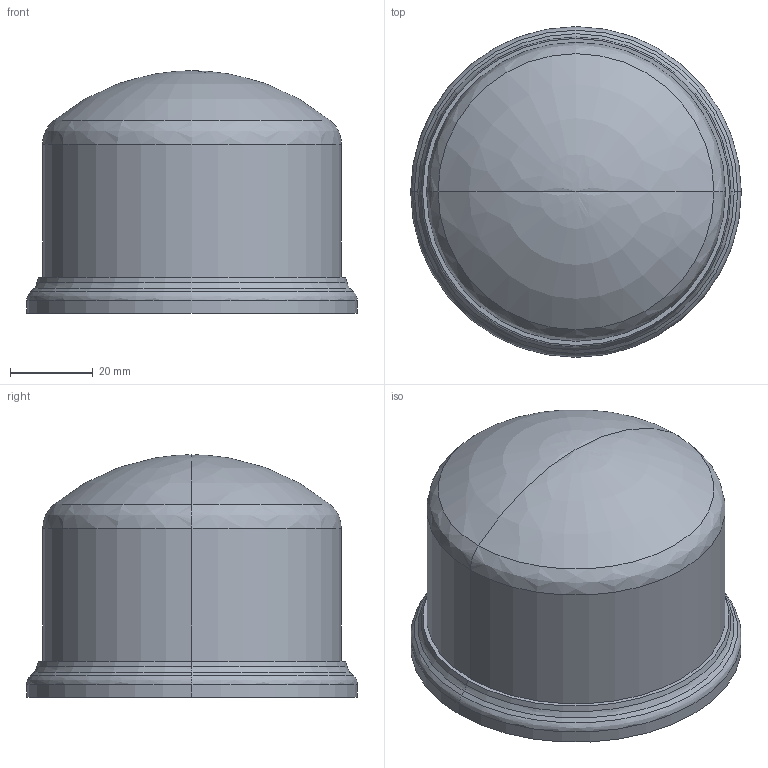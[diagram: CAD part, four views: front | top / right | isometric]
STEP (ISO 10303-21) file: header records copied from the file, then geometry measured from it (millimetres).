
FILE_DESCRIPTION(('CAx-IF Rec.Pracs.---Model Styling and Organization---1.2---2011-12-15','CAx-IF Rec.Pracs.---Geometric and Assembly Validation Properties---4.1---2014-06-16','CAx-IF Rec.Pracs.---PMI Polyline Presentation---2.0---2013-05-24'),'2;1');
FILE_NAME('022YK02Y05.stp','2020-09-29T08:49:06+02:00',(''),(''),'STEP Interface 4.3 by CT CoreTechnologie','3D_Evolution4.3 by CT CoreTechnologie','');
FILE_SCHEMA(('AP203_CONFIGURATION_CONTROLLED_3D_DESIGN_OF_MECHANICAL_PARTS_AND_ASSEMBLIES_MIM_LF'));
Length unit declared in the file: millimetre
Products named in the file (1): 022YK02Y05
Bounding box: 79.7 x 79.7 x 58.4 mm (x, y, z)
Volume: 18738.8 mm3; surface area: 29864.6 mm2
Topology: 1 solids, 1 shells, 56 faces, 140 edges, 87 vertices
Faces by surface type: bspline 24, plane 19, cylinder 13
Entity records: 4516 total; most frequent: CARTESIAN_POINT 872, PROPERTY_DEFINITION 318, ORIENTED_EDGE 276, DIRECTION 275, SHAPE_REPRESENTATION 160, SHAPE_DEFINITION_REPRESENTATION 160, REPRESENTATION 159, SHAPE_ASPECT 159
